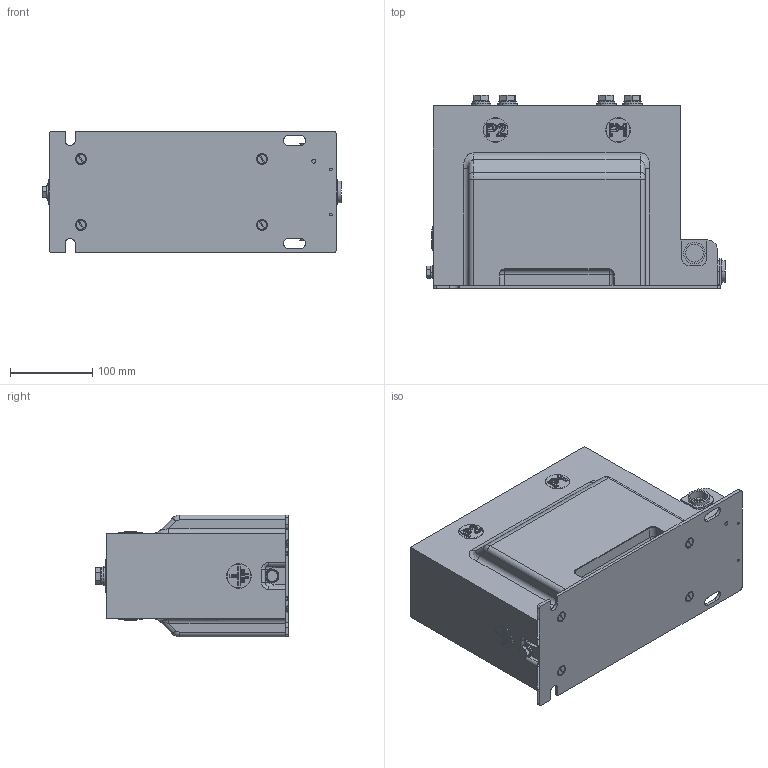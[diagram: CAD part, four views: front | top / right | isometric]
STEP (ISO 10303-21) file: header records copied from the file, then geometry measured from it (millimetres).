
FILE_DESCRIPTION (( 'STEP AP203' ), '1' );
FILE_NAME ('1110000999.STEP', '2017-11-07T05:40:56', ( '' ), ( '' ), 'SwSTEP 2.0', 'SolidWorks 2017', '' );
FILE_SCHEMA (( 'CONFIG_CONTROL_DESIGN' ));
Products named in the file (1): 1110000999
Bounding box: 363 x 235.1 x 148 mm (x, y, z)
Volume: 8297649.8 mm3; surface area: 376253.9 mm2
Topology: 27 solids, 53 shells, 2792 faces, 6821 edges, 4150 vertices
Faces by surface type: plane 1104, cylinder 862, cone 252, bspline 250, torus 208, sphere 116
Entity records: 105908 total; most frequent: CARTESIAN_POINT 41000, DIRECTION 13807, ORIENTED_EDGE 13374, EDGE_CURVE 6687, AXIS2_PLACEMENT_3D 5385, VERTEX_POINT 4150, EDGE_LOOP 3075, LINE 3037
